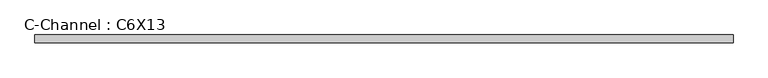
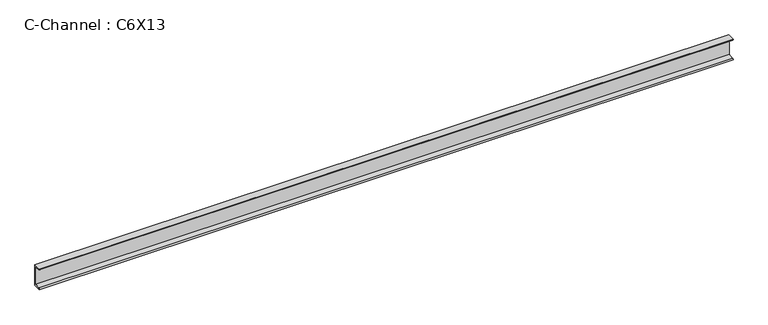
"""IFC4 building model written with IfcOpenShell, lengths in millimetres: beam geometry, C-Channel : C6X13."""

from ifc_helpers import new_model, si_unit, point, frame, frame_2d, origin, place, context, project, spatial, polyline, circle_curve, trimmed, segment, composite_curve, outline, extrude, source, transform, mapped, element, save


def c_channel_c6x13_86cb4102(model_context):
    return source(origin(), model_context, "Body", "SweptSolid", [
        extrude(outline(composite_curve([segment(polyline([(13.0556, 76.2), (13.0556, -76.2), (-41.8084, -76.2)]), True, "CONTINUOUS"), segment(trimmed(circle_curve(frame_2d((-33.0962, -76.2)), 8.7122), [point((-41.8084, -76.2))], [point((-33.0962, -67.4878))], False, "CARTESIAN"), True, "CONTINUOUS"), segment(polyline([(-33.0962, -67.4878), (1.9558, -61.9361086), (1.9558, 61.9361086), (-33.0962, 67.4878)]), True, "CONTINUOUS"), segment(trimmed(circle_curve(frame_2d((-33.0962, 76.2)), 8.7122), [point((-33.0962, 67.4878))], [point((-41.8084, 76.2))], False, "CARTESIAN"), True, "CONTINUOUS"), segment(polyline([(-41.8084, 76.2), (13.0556, 76.2)]), True, "CONTINUOUS")], self_intersect=False)), frame((-2434.3170596, 0.0, 0.0), z_axis=(1.0, 0.0, 0.0), x_axis=(0.0, 1.0, 0.0)), (0.0, 0.0, 1.0), 4868.6342098),
    ])


if __name__ == "__main__":
    model = new_model("IFC4")
    model_context = context("Model", 3, world=origin())
    ifc_project = project(units=[si_unit("LENGTHUNIT", "METRE", prefix="MILLI")], contexts=[model_context])
    site = spatial("IfcSite", under=ifc_project)
    building = spatial("IfcBuilding", under=site)
    placement = place(None, origin())
    c_channel_c6x13_shape = c_channel_c6x13_86cb4102(model_context)
    element("IfcBeam", 1, ObjectType="C-Channel : C6X13", at=placement, inside=building, context=model_context, shape_type="MappedRepresentation", body=[
        mapped(c_channel_c6x13_shape, transform((0.0, 0.0, 0.0), x_axis=(1.0, 0.0, 0.0), y_axis=(0.0, 1.0, 0.0), z_axis=(0.0, 0.0, 1.0))),
    ])
    save(model, "model.ifc")
